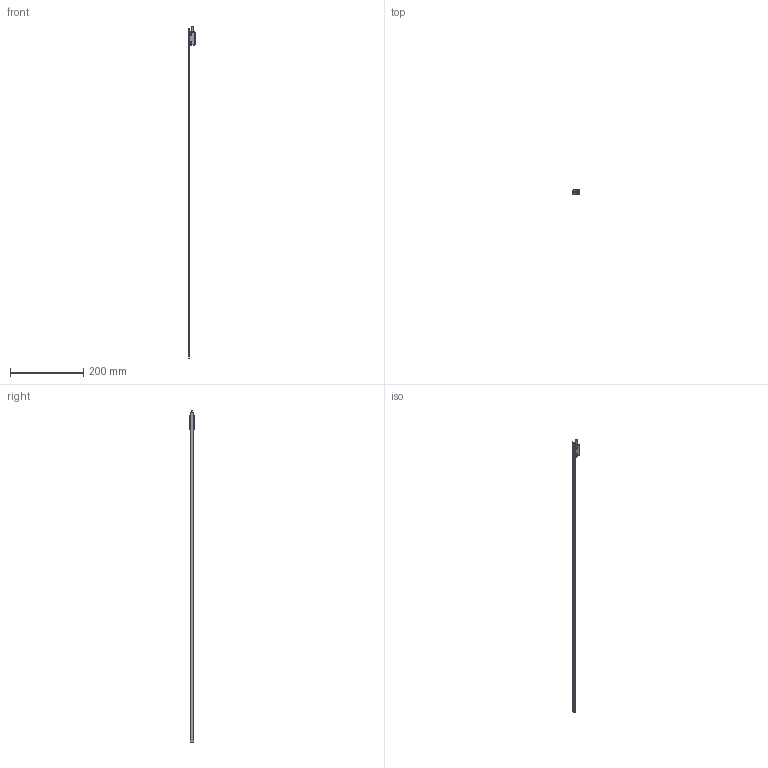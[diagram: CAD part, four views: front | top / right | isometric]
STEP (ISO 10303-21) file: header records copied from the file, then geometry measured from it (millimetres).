
FILE_DESCRIPTION (( 'STEP AP214' ), '1' );
FILE_NAME ('×°ÅäÌå5.STEP', '2023-02-08T07:56:46', ( '' ), ( '' ), 'SwSTEP 2.0', 'SolidWorks 2020', '' );
FILE_SCHEMA (( 'AUTOMOTIVE_DESIGN' ));
Length unit declared in the file: millimetre
Products named in the file (3): CH22AX05A 黍杅芛; CH22-L900 棠掑喜; 蚾饜极5
Assembly tree (2 placements, depth 2):
  蚾饜极5
    CH22AX05A 黍杅芛
    CH22-L900 棠掑喜
Bounding box: 16.5 x 13.5 x 906 mm (x, y, z)
Volume: 17178.5 mm3; surface area: 27991.6 mm2
Topology: 45 solids, 45 shells, 506 faces, 1152 edges, 733 vertices
Faces by surface type: plane 349, cylinder 105, cone 48, torus 4
Entity records: 19975 total; most frequent: CARTESIAN_POINT 2436, DIRECTION 2402, ORIENTED_EDGE 2284, EDGE_CURVE 1142, VECTOR 888, LINE 888, AXIS2_PLACEMENT_3D 757, VERTEX_POINT 733
